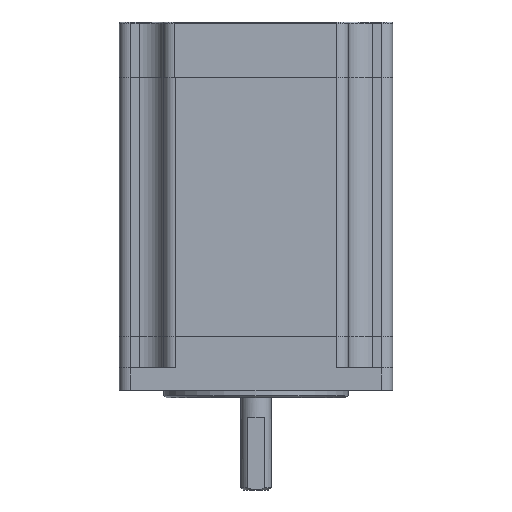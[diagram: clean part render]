
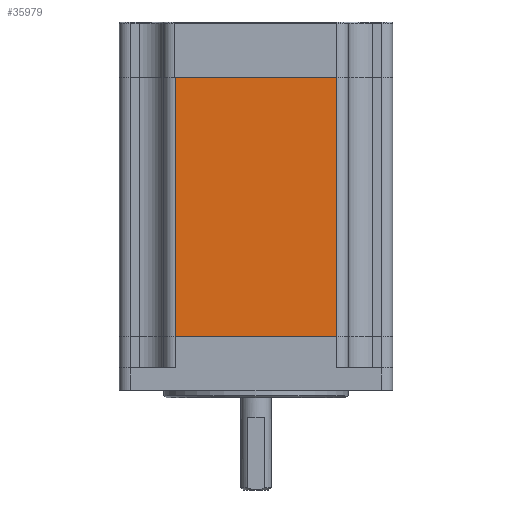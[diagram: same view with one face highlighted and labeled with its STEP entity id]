
A CAD part, left-side view. The second image highlights one B-rep face of the part: STEP entity #35979.
In plain terms, the highlighted planar face has unit normal (-1, 0, 0).
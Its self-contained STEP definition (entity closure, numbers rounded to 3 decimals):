
#205 = FACE_OUTER_BOUND ( 'NONE', #19310, .T. ) ;
#2374 = DIRECTION ( 'NONE',  ( 0., 0., 1. ) ) ;
#4133 = DIRECTION ( 'NONE',  ( 0., -1., 0. ) ) ;
#4649 = CARTESIAN_POINT ( 'NONE',  ( -28.2, -16.7, 0. ) ) ;
#5395 = VECTOR ( 'NONE', #7739, 1000. ) ;
#5531 = LINE ( 'NONE', #17251, #21476 ) ;
#6293 = EDGE_CURVE ( 'NONE', #25680, #42451, #9243, .T. ) ;
#7739 = DIRECTION ( 'NONE',  ( 0., 0., -1. ) ) ;
#9090 = DIRECTION ( 'NONE',  ( 0., 0., 1. ) ) ;
#9243 = LINE ( 'NONE', #4649, #19839 ) ;
#14015 = EDGE_CURVE ( 'NONE', #50908, #42451, #19776, .T. ) ;
#15518 = CARTESIAN_POINT ( 'NONE',  ( -28.2, 16.7, 0. ) ) ;
#16511 = EDGE_CURVE ( 'NONE', #50908, #16721, #47919, .T. ) ;
#16721 = VERTEX_POINT ( 'NONE', #17193 ) ;
#17193 = CARTESIAN_POINT ( 'NONE',  ( -28.2, 16.7, 0. ) ) ;
#17251 = CARTESIAN_POINT ( 'NONE',  ( -28.2, 16.7, 0. ) ) ;
#19310 = EDGE_LOOP ( 'NONE', ( #33436, #29222, #21998, #47195 ) ) ;
#19776 = LINE ( 'NONE', #54474, #55034 ) ;
#19839 = VECTOR ( 'NONE', #9090, 1000. ) ;
#21476 = VECTOR ( 'NONE', #47353, 1000. ) ;
#21864 = CARTESIAN_POINT ( 'NONE',  ( -28.2, -16.7, 53.5 ) ) ;
#21998 = ORIENTED_EDGE ( 'NONE', *, *, #6293, .T. ) ;
#24802 = AXIS2_PLACEMENT_3D ( 'NONE', #15518, #28145, #2374 ) ;
#25680 = VERTEX_POINT ( 'NONE', #41737 ) ;
#27780 = PLANE ( 'NONE',  #24802 ) ;
#28145 = DIRECTION ( 'NONE',  ( -1., 0., 0. ) ) ;
#29222 = ORIENTED_EDGE ( 'NONE', *, *, #47164, .T. ) ;
#33436 = ORIENTED_EDGE ( 'NONE', *, *, #16511, .T. ) ;
#33550 = CARTESIAN_POINT ( 'NONE',  ( -28.2, 16.7, 0. ) ) ;
#35979 = ADVANCED_FACE ( 'NONE', ( #205 ), #27780, .T. ) ;
#41346 = CARTESIAN_POINT ( 'NONE',  ( -28.2, 16.7, 53.5 ) ) ;
#41737 = CARTESIAN_POINT ( 'NONE',  ( -28.2, -16.7, 0. ) ) ;
#42451 = VERTEX_POINT ( 'NONE', #21864 ) ;
#47164 = EDGE_CURVE ( 'NONE', #16721, #25680, #5531, .T. ) ;
#47195 = ORIENTED_EDGE ( 'NONE', *, *, #14015, .F. ) ;
#47353 = DIRECTION ( 'NONE',  ( 0., -1., 0. ) ) ;
#47919 = LINE ( 'NONE', #33550, #5395 ) ;
#50908 = VERTEX_POINT ( 'NONE', #41346 ) ;
#54474 = CARTESIAN_POINT ( 'NONE',  ( -28.2, 16.7, 53.5 ) ) ;
#55034 = VECTOR ( 'NONE', #4133, 1000. ) ;
